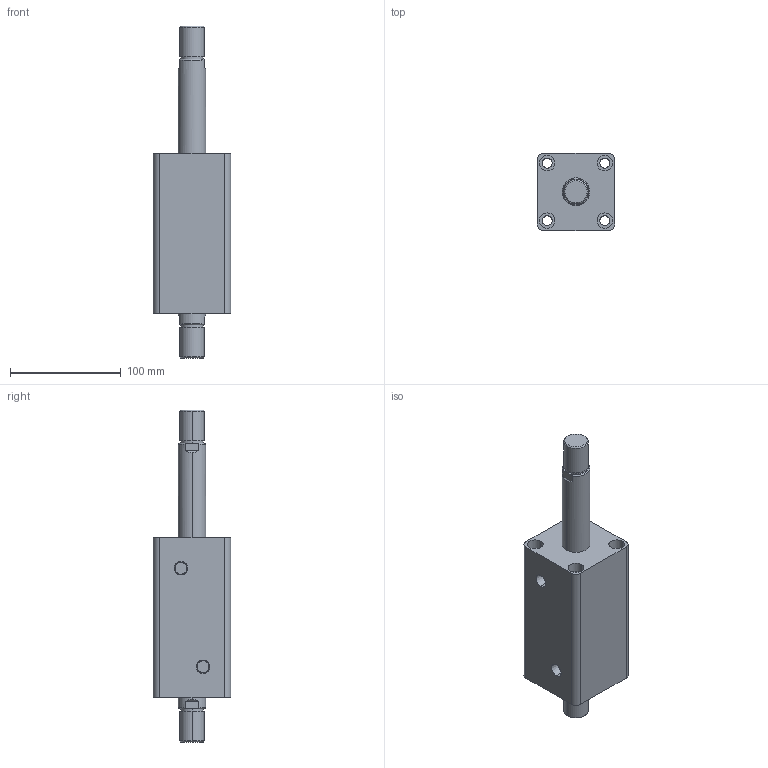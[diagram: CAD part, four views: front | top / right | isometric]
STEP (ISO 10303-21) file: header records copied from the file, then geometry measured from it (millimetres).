
FILE_DESCRIPTION (( 'STEP AP203' ), '1' );
FILE_NAME ('HTB-SW40-75W.STEP', '2019-10-07T09:11:46', ( '微软用户' ), ( '微软中国' ), 'SwSTEP 2.0', 'SolidWorks 2012', '' );
FILE_SCHEMA (( 'CONFIG_CONTROL_DESIGN' ));
Length unit declared in the file: millimetre
Products named in the file (3): HTB-SW40-75W; HTB-SW40-75W活塞杆; HTB-SW40-75掛极
Assembly tree (2 placements, depth 2):
  HTB-SW40-75W
    HTB-SW40-75掛极
    HTB-SW40-75W活塞杆
Bounding box: 70 x 70 x 300 mm (x, y, z)
Volume: 671868.1 mm3; surface area: 109076.8 mm2
Topology: 2 solids, 2 shells, 108 faces, 240 edges, 156 vertices
Faces by surface type: cylinder 52, plane 36, torus 12, cone 8
Entity records: 3449 total; most frequent: CARTESIAN_POINT 629, DIRECTION 586, ORIENTED_EDGE 480, AXIS2_PLACEMENT_3D 249, EDGE_CURVE 240, VERTEX_POINT 156, EDGE_LOOP 138, CIRCLE 136
